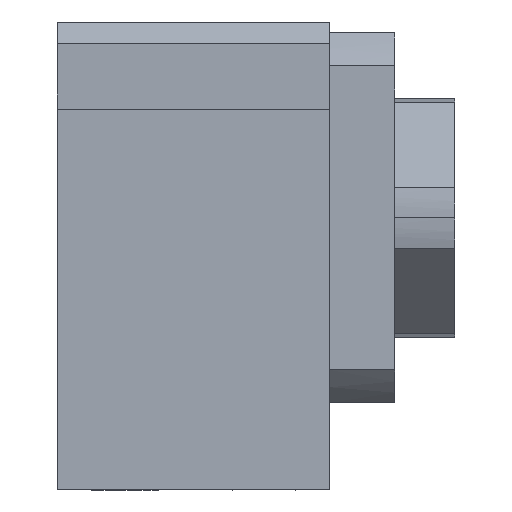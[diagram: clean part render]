
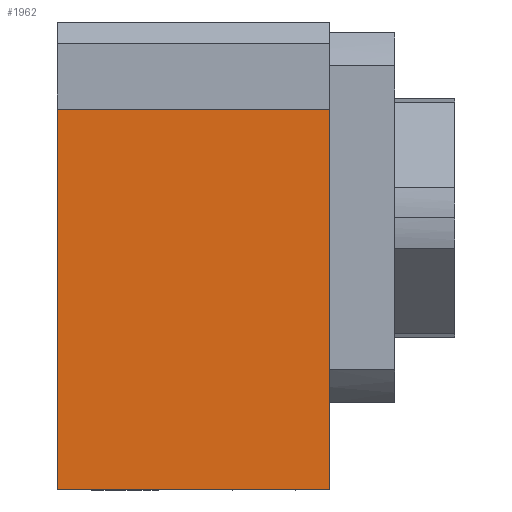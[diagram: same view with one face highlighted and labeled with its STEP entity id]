
A CAD part, front view. The second image highlights one B-rep face of the part: STEP entity #1962.
In plain terms, the highlighted planar face has unit normal (0, -1, 0).
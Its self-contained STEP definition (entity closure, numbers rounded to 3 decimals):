
#749=CARTESIAN_POINT('Vertex',(-25.,-30.,-25.)) ;
#765=CARTESIAN_POINT('Vertex',(0.,-30.,-25.)) ;
#768=CARTESIAN_POINT('Line Origine',(-12.5,-30.,-25.)) ;
#1295=CARTESIAN_POINT('Vertex',(0.,-30.,10.)) ;
#1298=CARTESIAN_POINT('Line Origine',(0.,-30.,-7.5)) ;
#1677=CARTESIAN_POINT('Line Origine',(-25.,-30.,-7.5)) ;
#1681=CARTESIAN_POINT('Vertex',(-25.,-30.,10.)) ;
#1946=CARTESIAN_POINT('Axis2P3D Location',(0.,-30.,-25.)) ;
#1951=CARTESIAN_POINT('Line Origine',(-12.5,-30.,10.)) ;
#769=DIRECTION('Vector Direction',(-1.,0.,0.)) ;
#1299=DIRECTION('Vector Direction',(0.,0.,1.)) ;
#1678=DIRECTION('Vector Direction',(0.,0.,1.)) ;
#1947=DIRECTION('Axis2P3D Direction',(0.,-1.,0.)) ;
#1948=DIRECTION('Axis2P3D XDirection',(0.,0.,1.)) ;
#1952=DIRECTION('Vector Direction',(-1.,0.,0.)) ;
#1949=AXIS2_PLACEMENT_3D('Plane Axis2P3D',#1946,#1947,#1948) ;
#1957=ORIENTED_EDGE('',*,*,#1683,.T.) ;
#1958=ORIENTED_EDGE('',*,*,#772,.F.) ;
#1959=ORIENTED_EDGE('',*,*,#1302,.F.) ;
#1960=ORIENTED_EDGE('',*,*,#1955,.T.) ;
#770=VECTOR('Line Direction',#769,1.) ;
#1300=VECTOR('Line Direction',#1299,1.) ;
#1679=VECTOR('Line Direction',#1678,1.) ;
#1953=VECTOR('Line Direction',#1952,1.) ;
#1962=ADVANCED_FACE('BK12(H)',(#1961),#1950,.T.) ;
#772=EDGE_CURVE('',#766,#750,#771,.T.) ;
#1302=EDGE_CURVE('',#1296,#766,#1301,.F.) ;
#1683=EDGE_CURVE('',#1682,#750,#1680,.F.) ;
#1955=EDGE_CURVE('',#1296,#1682,#1954,.T.) ;
#1956=EDGE_LOOP('',(#1957,#1958,#1959,#1960)) ;
#1961=FACE_OUTER_BOUND('',#1956,.T.) ;
#771=LINE('Line',#768,#770) ;
#1301=LINE('Line',#1298,#1300) ;
#1680=LINE('Line',#1677,#1679) ;
#1954=LINE('Line',#1951,#1953) ;
#1950=PLANE('Plane',#1949) ;
#750=VERTEX_POINT('',#749) ;
#766=VERTEX_POINT('',#765) ;
#1296=VERTEX_POINT('',#1295) ;
#1682=VERTEX_POINT('',#1681) ;
